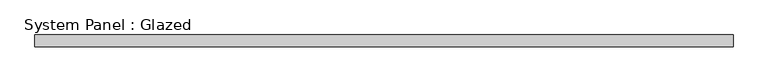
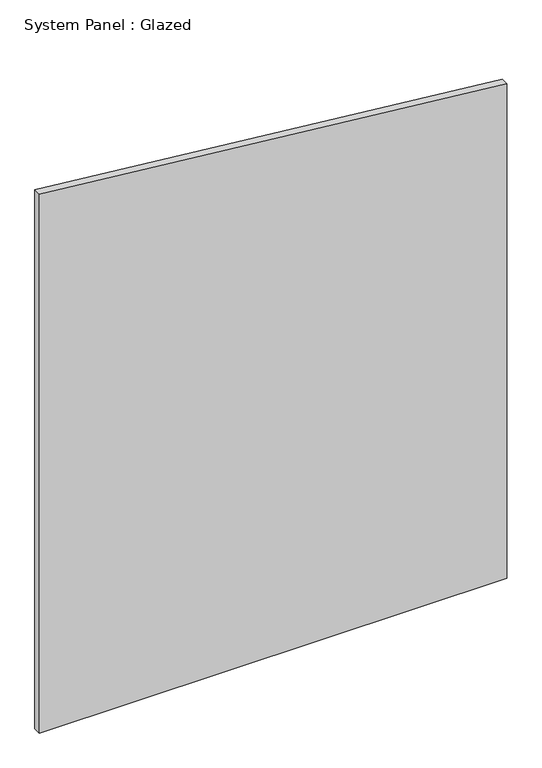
"""IFC4 building model written with IfcOpenShell, lengths in millimetres: plate geometry, System Panel : Glazed."""

from ifc_helpers import new_model, si_unit, frame, origin, place, context, project, spatial, polyline, outline, extrude, source, transform, mapped, element, save


def system_panel_glazed_ce9d87da(model_context):
    return source(origin(), model_context, "Body", "SweptSolid", [
        extrude(outline(polyline([(0.0, -735.8695652), (0.0, 735.8695652), (1645.3244155, 735.8695652), (1793.3073942, -735.8695652), (0.0, -735.8695652)])), frame((0.0, 24.5, 0.0), z_axis=(0.0, 1.0, 0.0), x_axis=(0.0, 0.0, 1.0)), (0.0, 0.0, 1.0), 25.0),
    ])


if __name__ == "__main__":
    model = new_model("IFC4")
    model_context = context("Model", 3, world=origin())
    ifc_project = project(units=[si_unit("LENGTHUNIT", "METRE", prefix="MILLI")], contexts=[model_context])
    site = spatial("IfcSite", under=ifc_project)
    building = spatial("IfcBuilding", under=site)
    placement = place(None, origin())
    system_panel_glazed_shape = system_panel_glazed_ce9d87da(model_context)
    element("IfcPlate", 1, ObjectType="System Panel : Glazed", at=placement, inside=building, context=model_context, shape_type="MappedRepresentation", body=[
        mapped(system_panel_glazed_shape, transform((0.0, 0.0, 0.0), x_axis=(1.0, 0.0, 0.0), y_axis=(0.0, 1.0, 0.0), z_axis=(0.0, 0.0, 1.0))),
    ])
    save(model, "model.ifc")
